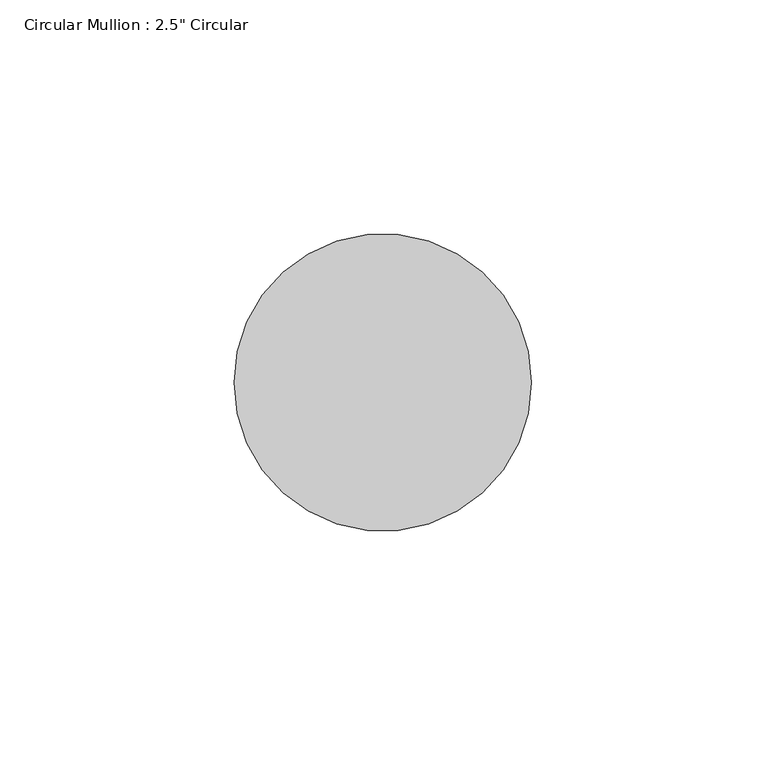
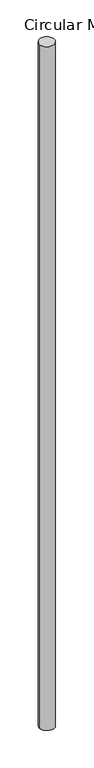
"""IFC4 building model written with IfcOpenShell, lengths in millimetres: member geometry."""

from ifc_helpers import new_model, si_unit, frame, origin, place, context, project, spatial, circle_curve, ellipse_curve, source, transform, mapped, element, save
from ifc_brep_helpers import plane_surface, cylinder_surface, advanced_brep


def member_6859f3a6(model_context):
    return source(origin(), model_context, "Body", "AdvancedBrep", [
        advanced_brep(
        [(0.0, 0.0, 0.0), (-63.5, 0.0, 0.0), (0.0, 0.0, -3047.0721863), (-63.5, 0.0, -3045.5815996)],
        [
            (0, 1, circle_curve(frame((-31.75, 0.0, 0.0), z_axis=(0.0, 0.0, 1.0), x_axis=(1.0, 0.0, 0.0)), 31.75)),
            (1, 0, circle_curve(frame((-31.75, 0.0, 0.0), z_axis=(0.0, 0.0, 1.0), x_axis=(1.0, 0.0, 0.0)), 31.75)),
            (0, 2),
            (2, 3, ellipse_curve(frame((-31.75, 0.0, -3046.326893), z_axis=(0.023427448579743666, 0.05828347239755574, 0.9980251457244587), x_axis=(-0.3722189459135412, -0.9260168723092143, 0.06281567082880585)), 31.8128257, 31.75)),
            (3, 1),
            (3, 2, ellipse_curve(frame((-31.75, 0.0, -3046.326893), z_axis=(0.023427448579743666, 0.05828347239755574, 0.9980251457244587), x_axis=(-0.3722189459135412, -0.9260168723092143, 0.06281567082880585)), 31.8128257, 31.75)),
        ],
        [
            plane_surface(frame((0.0, -63.5, 0.0), z_axis=(0.0, 0.0, 1.0), x_axis=(-1.0, 0.0, 0.0))),
            cylinder_surface(frame((-31.75, 0.0, 0.0), z_axis=(0.0, 0.0, 1.0), x_axis=(1.0, 0.0, 0.0)), 31.75),
            plane_surface(frame((282.8084482, -113.6768299, -3047.0721863), z_axis=(-0.023427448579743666, -0.05828347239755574, -0.9980251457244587), x_axis=(-0.3722189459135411, -0.926016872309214, 0.06281567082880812))),
        ],
        [
            (0, [[1, 2]]),
            (1, [[-1, 3, 4, 5]]),
            (1, [[-2, -5, 6, -3]]),
            (2, [[-6, -4]]),
        ],
    ),
    ])


if __name__ == "__main__":
    model = new_model("IFC4")
    model_context = context("Model", 3, world=origin())
    ifc_project = project(units=[si_unit("LENGTHUNIT", "METRE", prefix="MILLI")], contexts=[model_context])
    site = spatial("IfcSite", under=ifc_project)
    building = spatial("IfcBuilding", under=site)
    placement = place(None, origin())
    member_shape = member_6859f3a6(model_context)
    element("IfcMember", 1, ObjectType="Circular Mullion : 2.5\" Circular", at=placement, inside=building, context=model_context, shape_type="MappedRepresentation", body=[
        mapped(member_shape, transform((0.0, 0.0, 0.0), x_axis=(1.0, 0.0, 0.0), y_axis=(0.0, 1.0, 0.0), z_axis=(0.0, 0.0, 1.0))),
    ])
    save(model, "model.ifc")
